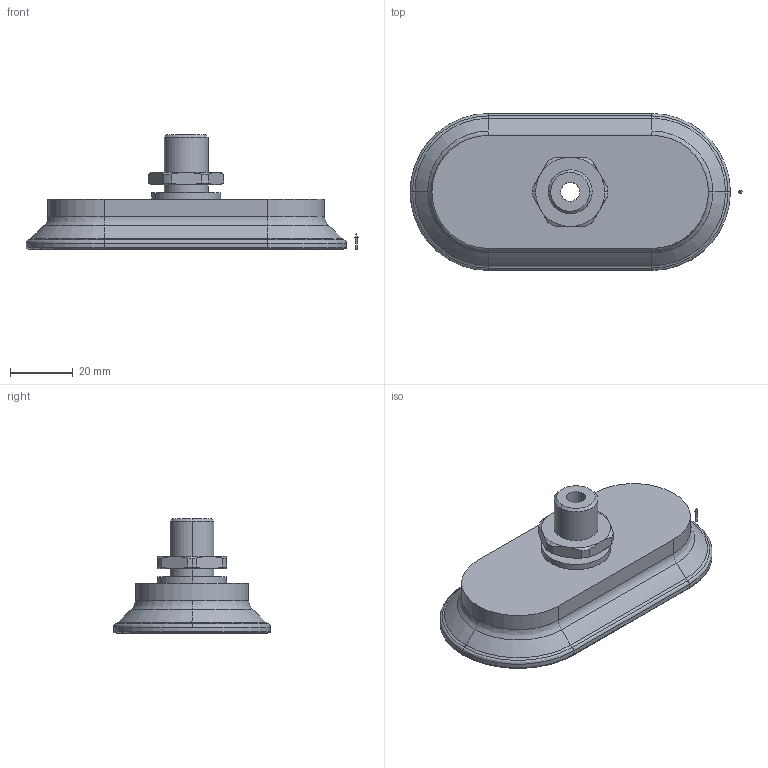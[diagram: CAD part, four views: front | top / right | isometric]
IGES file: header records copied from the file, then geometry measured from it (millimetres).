
Start section: 3D InterOp IGES (v. 2018 1.0.2), Spatial Corp. Copyright (c) 1999-2017.
Global section: file name: schmalz_10_01_05_00591_73rc3o9rw6tv1mgxsxpotbmsx.igs; native system: Spatial Corp.; preprocessor: 3D InterOp ACIS/IGES; author: TraceParts; organization: TraceParts S.A.; date: 20181031.030604; units: millimetre
Bounding box: 105.7 x 50 x 36.5 mm (x, y, z)
Surface area: 14366.4 mm2 (no closed solid volume)
Topology: 0 solids, 0 shells, 123 faces, 546 edges, 544 vertices
Faces by surface type: revolution 90, extrusion 33
